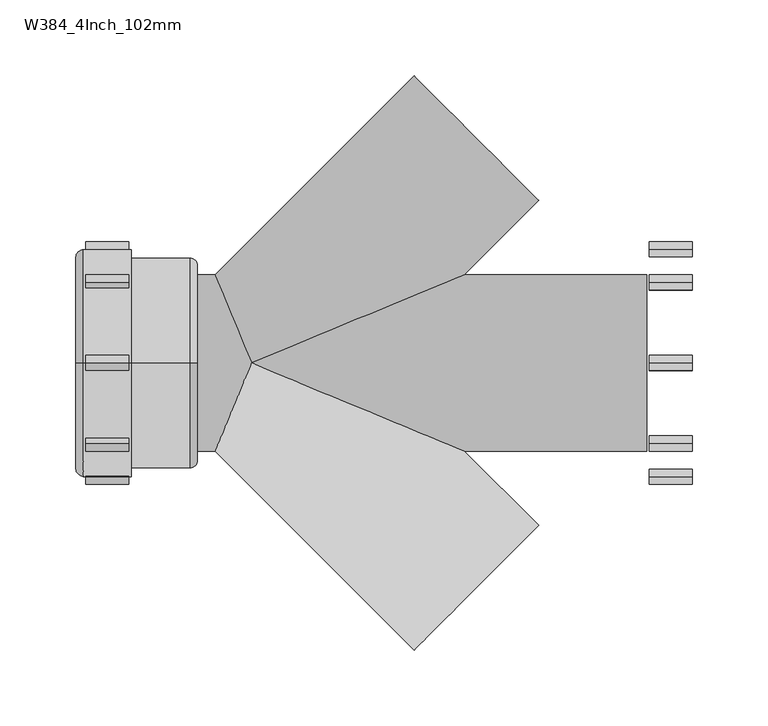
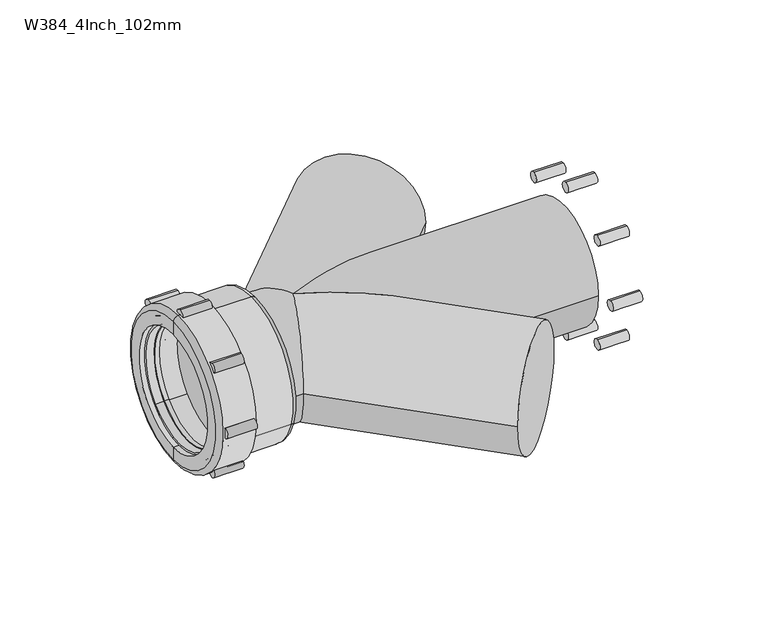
"""IFC4 building model written with IfcOpenShell, lengths in millimetres: pipe fitting geometry, Durapipe_PipeFitting_VulcatheneMechanical_DoubleWye_W38 : W384_4Inch_102mm."""

from ifc_helpers import new_model, si_unit, point, frame, frame_2d, origin, place, context, project, spatial, polyline, circle_curve, ellipse_curve, trimmed, segment, composite_curve, outline, extrude, source, transform, mapped, element, save
from ifc_brep_helpers import plane_surface, cylinder_surface, revolved_surface, advanced_brep


def w384_4inch_102mm_0749fb11(model_context):
    return source(origin(), model_context, "Body", "SolidModel", [
        extrude(outline(composite_curve([segment(trimmed(circle_curve(frame_2d((-75.0, 0.0)), 5.0), [point((-75.0, 5.0))], [point((-75.0, -5.0))], False, "CARTESIAN"), True, "CONTINUOUS"), segment(trimmed(circle_curve(frame_2d((-75.0, 0.0)), 5.0), [point((-75.0, -5.0))], [point((-75.0, 5.0))], False, "CARTESIAN"), True, "CONTINUOUS")], self_intersect=False)), frame((262.0, 0.0, 0.0), z_axis=(1.0, 0.0, 0.0), x_axis=(0.0, 1.0, 0.0)), (0.0, 0.0, 1.0), 28.2),
        extrude(outline(composite_curve([segment(trimmed(circle_curve(frame_2d((-53.0330086, -53.0330086)), 5.0), [point((-53.0330086, -48.0330086))], [point((-53.0330086, -58.0330086))], False, "CARTESIAN"), True, "CONTINUOUS"), segment(trimmed(circle_curve(frame_2d((-53.0330086, -53.0330086)), 5.0), [point((-53.0330086, -58.0330086))], [point((-53.0330086, -48.0330086))], False, "CARTESIAN"), True, "CONTINUOUS")], self_intersect=False)), frame((262.0, 0.0, 0.0), z_axis=(1.0, 0.0, 0.0), x_axis=(0.0, 1.0, 0.0)), (0.0, 0.0, 1.0), 28.2),
        extrude(outline(composite_curve([segment(trimmed(circle_curve(frame_2d((0.0, -75.0)), 5.0), [point((0.0, -70.0))], [point((0.0, -80.0))], False, "CARTESIAN"), True, "CONTINUOUS"), segment(trimmed(circle_curve(frame_2d((0.0, -75.0)), 5.0), [point((0.0, -80.0))], [point((0.0, -70.0))], False, "CARTESIAN"), True, "CONTINUOUS")], self_intersect=False)), frame((262.0, 0.0, 0.0), z_axis=(1.0, 0.0, 0.0), x_axis=(0.0, 1.0, 0.0)), (0.0, 0.0, 1.0), 28.2),
        extrude(outline(composite_curve([segment(trimmed(circle_curve(frame_2d((53.0330086, -53.0330086)), 5.0), [point((53.0330086, -48.0330086))], [point((53.0330086, -58.0330086))], False, "CARTESIAN"), True, "CONTINUOUS"), segment(trimmed(circle_curve(frame_2d((53.0330086, -53.0330086)), 5.0), [point((53.0330086, -58.0330086))], [point((53.0330086, -48.0330086))], False, "CARTESIAN"), True, "CONTINUOUS")], self_intersect=False)), frame((262.0, 0.0, 0.0), z_axis=(1.0, 0.0, 0.0), x_axis=(0.0, 1.0, 0.0)), (0.0, 0.0, 1.0), 28.2),
        extrude(outline(composite_curve([segment(trimmed(circle_curve(frame_2d((75.0, 0.0)), 5.0), [point((75.0, 5.0))], [point((75.0, -5.0))], False, "CARTESIAN"), True, "CONTINUOUS"), segment(trimmed(circle_curve(frame_2d((75.0, 0.0)), 5.0), [point((75.0, -5.0))], [point((75.0, 5.0))], False, "CARTESIAN"), True, "CONTINUOUS")], self_intersect=False)), frame((262.0, 0.0, 0.0), z_axis=(1.0, 0.0, 0.0), x_axis=(0.0, 1.0, 0.0)), (0.0, 0.0, 1.0), 28.2),
        extrude(outline(composite_curve([segment(trimmed(circle_curve(frame_2d((53.0330086, 53.0330086)), 5.0), [point((53.0330086, 58.0330086))], [point((53.0330086, 48.0330086))], False, "CARTESIAN"), True, "CONTINUOUS"), segment(trimmed(circle_curve(frame_2d((53.0330086, 53.0330086)), 5.0), [point((53.0330086, 48.0330086))], [point((53.0330086, 58.0330086))], False, "CARTESIAN"), True, "CONTINUOUS")], self_intersect=False)), frame((262.0, 0.0, 0.0), z_axis=(1.0, 0.0, 0.0), x_axis=(0.0, 1.0, 0.0)), (0.0, 0.0, 1.0), 28.2),
        extrude(outline(composite_curve([segment(trimmed(circle_curve(frame_2d((0.0, 75.0)), 5.0), [point((0.0, 80.0))], [point((0.0, 70.0))], False, "CARTESIAN"), True, "CONTINUOUS"), segment(trimmed(circle_curve(frame_2d((0.0, 75.0)), 5.0), [point((0.0, 70.0))], [point((0.0, 80.0))], False, "CARTESIAN"), True, "CONTINUOUS")], self_intersect=False)), frame((262.0, 0.0, 0.0), z_axis=(1.0, 0.0, 0.0), x_axis=(0.0, 1.0, 0.0)), (0.0, 0.0, 1.0), 28.2),
        extrude(outline(composite_curve([segment(trimmed(circle_curve(frame_2d((-53.0330086, 53.0330086)), 5.0), [point((-53.0330086, 58.0330086))], [point((-53.0330086, 48.0330086))], False, "CARTESIAN"), True, "CONTINUOUS"), segment(trimmed(circle_curve(frame_2d((-53.0330086, 53.0330086)), 5.0), [point((-53.0330086, 48.0330086))], [point((-53.0330086, 58.0330086))], False, "CARTESIAN"), True, "CONTINUOUS")], self_intersect=False)), frame((262.0, 0.0, 0.0), z_axis=(1.0, 0.0, 0.0), x_axis=(0.0, 1.0, 0.0)), (0.0, 0.0, 1.0), 28.2),
        advanced_brep(
        [(-110.2, 45.3962554, -45.3962554), (-110.2, 39.3858477, -39.3858477), (-110.2, -39.3858477, 39.3858477), (-110.2, -45.3962554, 45.3962554), (-88.4, -42.0021428, 42.0021428), (-88.4, 42.0021428, -42.0021428), (-51.5, 42.0021428, -42.0021428), (-51.5, -42.0021428, 42.0021428), (-51.5, -40.3757972, 40.3757972), (-51.5, 40.3757972, -40.3757972), (-97.5, -40.3757972, 40.3757972), (-97.5, 40.3757972, -40.3757972), (-97.5, -38.890873, 38.890873), (-97.5, 38.890873, -38.890873), (-102.0, 39.3858477, -39.3858477), (-102.0, 38.890873, -38.890873), (-102.0, -38.890873, 38.890873), (-102.0, -39.3858477, 39.3858477)],
        [
            (0, 1),
            (1, 2, circle_curve(frame((-110.2, 0.0, 0.0), z_axis=(1.0, 0.0, 0.0), x_axis=(0.0, -0.7071067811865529, 0.7071067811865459)), 55.7)),
            (2, 3),
            (3, 0, circle_curve(frame((-110.2, 0.0, 0.0), z_axis=(-1.0, 0.0, 0.0), x_axis=(0.0, -0.7071067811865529, 0.7071067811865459)), 64.2)),
            (2, 1, circle_curve(frame((-110.2, 0.0, 0.0), z_axis=(1.0, 0.0, 0.0), x_axis=(0.0, -0.7071067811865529, 0.7071067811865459)), 55.7)),
            (0, 3, circle_curve(frame((-110.2, 0.0, 0.0), z_axis=(-1.0, 0.0, 0.0), x_axis=(0.0, -0.7071067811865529, 0.7071067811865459)), 64.2)),
            (3, 4),
            (4, 5, circle_curve(frame((-88.4, 0.0, 0.0), z_axis=(-1.0, 0.0, 0.0), x_axis=(0.0, -0.7071067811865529, 0.7071067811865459)), 59.4)),
            (5, 0),
            (5, 4, circle_curve(frame((-88.4, 0.0, 0.0), z_axis=(-1.0, 0.0, 0.0), x_axis=(0.0, -0.7071067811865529, 0.7071067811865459)), 59.4)),
            (6, 5),
            (4, 7),
            (7, 6, circle_curve(frame((-51.5, 0.0, 0.0), z_axis=(-1.0, 0.0, 0.0), x_axis=(0.0, -0.7071067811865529, 0.7071067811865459)), 59.4)),
            (6, 7, circle_curve(frame((-51.5, 0.0, 0.0), z_axis=(-1.0, 0.0, 0.0), x_axis=(0.0, -0.7071067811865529, 0.7071067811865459)), 59.4)),
            (7, 8),
            (8, 9, circle_curve(frame((-51.5, 0.0, 0.0), z_axis=(-1.0, 0.0, 0.0), x_axis=(0.0, -0.7071067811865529, 0.7071067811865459)), 57.1)),
            (9, 6),
            (9, 8, circle_curve(frame((-51.5, 0.0, 0.0), z_axis=(-1.0, 0.0, 0.0), x_axis=(0.0, -0.7071067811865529, 0.7071067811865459)), 57.1)),
            (8, 10),
            (10, 11, circle_curve(frame((-97.5, 0.0, 0.0), z_axis=(-1.0, 0.0, 0.0), x_axis=(0.0, -0.7071067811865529, 0.7071067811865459)), 57.1)),
            (11, 9),
            (11, 10, circle_curve(frame((-97.5, 0.0, 0.0), z_axis=(-1.0, 0.0, 0.0), x_axis=(0.0, -0.7071067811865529, 0.7071067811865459)), 57.1)),
            (10, 12),
            (12, 13, circle_curve(frame((-97.5, 0.0, 0.0), z_axis=(-1.0, 0.0, 0.0), x_axis=(0.0, -0.7071067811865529, 0.7071067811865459)), 55.0)),
            (13, 11),
            (13, 12, circle_curve(frame((-97.5, 0.0, 0.0), z_axis=(-1.0, 0.0, 0.0), x_axis=(0.0, -0.7071067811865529, 0.7071067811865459)), 55.0)),
            (14, 15),
            (15, 16, circle_curve(frame((-102.0, 0.0, 0.0), z_axis=(1.0, 0.0, 0.0), x_axis=(0.0, -0.7071067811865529, 0.7071067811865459)), 55.0)),
            (16, 17),
            (17, 14, circle_curve(frame((-102.0, 0.0, 0.0), z_axis=(-1.0, 0.0, 0.0), x_axis=(0.0, -0.7071067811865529, 0.7071067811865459)), 55.7)),
            (16, 15, circle_curve(frame((-102.0, 0.0, 0.0), z_axis=(1.0, 0.0, 0.0), x_axis=(0.0, -0.7071067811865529, 0.7071067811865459)), 55.0)),
            (14, 17, circle_curve(frame((-102.0, 0.0, 0.0), z_axis=(-1.0, 0.0, 0.0), x_axis=(0.0, -0.7071067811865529, 0.7071067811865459)), 55.7)),
            (1, 14),
            (17, 2),
            (12, 16),
            (15, 13),
        ],
        [
            plane_surface(frame((-110.2, 0.0, 0.0), z_axis=(-1.0, 0.0, 0.0), x_axis=(0.0, -0.707106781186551, 0.707106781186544))),
            revolved_surface(polyline([(-110.2, -45.3962554, 45.3962554), (-88.4, -42.0021428, 42.0021428)]), (-115.2, 0.0, 0.0), (1.0000000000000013, 0.0, 0.0)),
            cylinder_surface(frame((-49.4293443, 0.0, 0.0), z_axis=(1.0000000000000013, 0.0, 0.0), x_axis=(0.0, -0.7071067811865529, 0.7071067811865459)), 59.4),
            plane_surface(frame((-51.5, 0.0, 0.0), z_axis=(1.0, 0.0, 0.0), x_axis=(0.0, -0.707106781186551, 0.707106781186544))),
            revolved_surface(polyline([(-51.50000000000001, -40.37579720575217, 40.37579720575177), (-97.50000000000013, -40.37579720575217, 40.37579720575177)]), (-48.007009, 0.0, 0.0), (1.0000000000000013, 0.0, 0.0)),
            plane_surface(frame((-97.5, 0.0, 0.0), z_axis=(1.0, 0.0, 0.0), x_axis=(0.0, -0.707106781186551, 0.707106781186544))),
            plane_surface(frame((-102.0, 0.0, 0.0), z_axis=(-1.0, 0.0, 0.0), x_axis=(0.0, -0.707106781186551, 0.707106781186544))),
            revolved_surface(polyline([(-101.99999999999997, -39.385847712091, 39.38584771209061), (-110.19999999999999, -39.385847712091, 39.38584771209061)]), (-115.2, 0.0, 0.0), (1.0000000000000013, 0.0, 0.0)),
            revolved_surface(polyline([(-97.49999999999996, -38.89087296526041, 38.89087296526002), (-101.99999999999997, -38.89087296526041, 38.89087296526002)]), (-111.7661924, 0.0, 0.0), (1.0000000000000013, 0.0, 0.0)),
        ],
        [
            (0, [[1, 2, 3, 4]]),
            (0, [[5, -1, 6, -3]]),
            (1, [[7, 8, 9, -4]]),
            (1, [[-9, 10, -7, -6]]),
            (2, [[11, -8, 12, 13]]),
            (2, [[-10, -11, 14, -12]]),
            (3, [[15, 16, 17, -13]]),
            (3, [[-17, 18, -15, -14]]),
            (4, [[-16, 19, 20, 21]]),
            (4, [[22, -19, -18, -21]]),
            (5, [[23, 24, 25, -20]]),
            (5, [[-25, 26, -23, -22]]),
            (6, [[27, 28, 29, 30]]),
            (6, [[-29, 31, -27, 32]]),
            (7, [[33, -30, 34, -2]]),
            (7, [[-34, -32, -33, -5]]),
            (8, [[-24, 35, -28, 36]]),
            (8, [[-31, -35, -26, -36]]),
        ],
    ),
        advanced_brep(
        [(-79.2, 0.0, -75.0), (-110.7, 0.0, -75.0), (-110.7, 0.0, 75.0), (-79.2, 0.0, 75.0), (-79.2, 0.0, -69.5), (-79.2, 0.0, 69.5), (-115.7, 0.0, -70.0), (-115.7, 0.0, -57.5), (-115.7, 0.0, 57.5), (-115.7, 0.0, 70.0), (-110.2, 0.0, -66.0), (-79.2, 0.0, -66.0), (-79.2, 0.0, 66.0), (-110.2, 0.0, 66.0), (-110.2, 0.0, -57.5), (-110.2, 0.0, 57.5), (-40.7, 0.0, -69.5), (-40.7, 0.0, 69.5), (-35.7, 0.0, -64.5), (-35.7, 0.0, 64.5), (-35.7, 0.0, 0.0), (-79.2, 0.0, 0.0)],
        [
            (0, 1),
            (1, 2, circle_curve(frame((-110.7, 0.0, 0.0), z_axis=(1.0, 0.0, 0.0), x_axis=(0.0, 0.0, 1.0000000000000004)), 75.0)),
            (2, 3),
            (3, 0, circle_curve(frame((-79.2, 0.0, 0.0), z_axis=(-1.0, 0.0, 0.0), x_axis=(0.0, 0.0, 1.0000000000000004)), 75.0)),
            (2, 1, circle_curve(frame((-110.7, 0.0, 0.0), z_axis=(1.0, 0.0, 0.0), x_axis=(0.0, 0.0, 1.0000000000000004)), 75.0)),
            (0, 3, circle_curve(frame((-79.2, 0.0, 0.0), z_axis=(-1.0, 0.0, 0.0), x_axis=(0.0, 0.0, 1.0000000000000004)), 75.0)),
            (4, 0),
            (3, 5),
            (5, 4, circle_curve(frame((-79.2, 0.0, 0.0), z_axis=(-1.0, 0.0, 0.0), x_axis=(0.0, 0.0, 1.0000000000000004)), 69.5)),
            (4, 5, circle_curve(frame((-79.2, 0.0, 0.0), z_axis=(-1.0, 0.0, 0.0), x_axis=(0.0, 0.0, 1.0000000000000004)), 69.5)),
            (6, 7),
            (7, 8, circle_curve(frame((-115.7, 0.0, 0.0), z_axis=(1.0, 0.0, 0.0), x_axis=(0.0, 0.0, 1.0000000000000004)), 57.5)),
            (8, 9),
            (9, 6, circle_curve(frame((-115.7, 0.0, 0.0), z_axis=(-1.0, 0.0, 0.0), x_axis=(0.0, 0.0, 1.0000000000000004)), 70.0)),
            (8, 7, circle_curve(frame((-115.7, 0.0, 0.0), z_axis=(1.0, 0.0, 0.0), x_axis=(0.0, 0.0, 1.0000000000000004)), 57.5)),
            (6, 9, circle_curve(frame((-115.7, 0.0, 0.0), z_axis=(-1.0, 0.0, 0.0), x_axis=(0.0, 0.0, 1.0000000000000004)), 70.0)),
            (1, 6, circle_curve(frame((-110.7, 0.0, -70.0), z_axis=(0.0, 1.0000000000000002, 0.0), x_axis=(-1.0000000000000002, 0.0, 0.0)), 5.0)),
            (9, 2, circle_curve(frame((-110.7, 0.0, 70.0), z_axis=(0.0, 1.0000000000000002, 0.0), x_axis=(-1.0000000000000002, 0.0, 0.0)), 5.0)),
            (10, 11),
            (11, 12, circle_curve(frame((-79.2, 0.0, 0.0), z_axis=(1.0, 0.0, 0.0), x_axis=(0.0, 0.0, 1.0000000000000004)), 66.0)),
            (12, 13),
            (13, 10, circle_curve(frame((-110.2, 0.0, 0.0), z_axis=(-1.0, 0.0, 0.0), x_axis=(0.0, 0.0, 1.0000000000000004)), 66.0)),
            (12, 11, circle_curve(frame((-79.2, 0.0, 0.0), z_axis=(1.0, 0.0, 0.0), x_axis=(0.0, 0.0, 1.0000000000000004)), 66.0)),
            (10, 13, circle_curve(frame((-110.2, 0.0, 0.0), z_axis=(-1.0, 0.0, 0.0), x_axis=(0.0, 0.0, 1.0000000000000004)), 66.0)),
            (14, 10),
            (13, 15),
            (15, 14, circle_curve(frame((-110.2, 0.0, 0.0), z_axis=(-1.0, 0.0, 0.0), x_axis=(0.0, 0.0, 1.0000000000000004)), 57.5)),
            (14, 15, circle_curve(frame((-110.2, 0.0, 0.0), z_axis=(-1.0, 0.0, 0.0), x_axis=(0.0, 0.0, 1.0000000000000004)), 57.5)),
            (7, 14),
            (15, 8),
            (16, 4),
            (5, 17),
            (17, 16, circle_curve(frame((-40.7, 0.0, 0.0), z_axis=(-1.0, 0.0, 0.0), x_axis=(0.0, 0.0, 1.0000000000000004)), 69.5)),
            (16, 17, circle_curve(frame((-40.7, 0.0, 0.0), z_axis=(-1.0, 0.0, 0.0), x_axis=(0.0, 0.0, 1.0000000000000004)), 69.5)),
            (18, 16, circle_curve(frame((-40.7, 0.0, -64.5), z_axis=(0.0, 1.0000000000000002, 0.0), x_axis=(-1.0000000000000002, 0.0, 0.0)), 5.0)),
            (17, 19, circle_curve(frame((-40.7, 0.0, 64.5), z_axis=(0.0, 1.0000000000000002, 0.0), x_axis=(-1.0000000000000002, 0.0, 0.0)), 5.0)),
            (19, 18, circle_curve(frame((-35.7, 0.0, 0.0), z_axis=(-1.0, 0.0, 0.0), x_axis=(0.0, 0.0, 1.0000000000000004)), 64.5)),
            (18, 19, circle_curve(frame((-35.7, 0.0, 0.0), z_axis=(-1.0, 0.0, 0.0), x_axis=(0.0, 0.0, 1.0000000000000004)), 64.5)),
            (20, 18),
            (19, 20),
            (11, 21),
            (21, 12),
        ],
        [
            cylinder_surface(frame((-1676.5018184, 0.0, 0.0), z_axis=(1.0000000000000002, 0.0, 0.0), x_axis=(0.0, 0.0, 1.0000000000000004)), 75.0),
            plane_surface(frame((-79.2, 0.0, 0.0), z_axis=(1.0, 0.0, 0.0), x_axis=(0.0, 0.0, 1.0))),
            plane_surface(frame((-115.7, 0.0, 0.0), z_axis=(-1.0, 0.0, 0.0), x_axis=(0.0, 0.0, 1.0))),
            revolved_surface(trimmed(ellipse_curve(frame((-110.7, 0.0, 70.0), z_axis=(0.0, 1.0000000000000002, 0.0), x_axis=(-1.0000000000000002, 0.0, 0.0)), 5.0, 5.0), [point((-115.7, 0.0, 70.0))], [point((-110.7, 0.0, 75.0))], True, "CARTESIAN"), (-1676.5018184, 0.0, 0.0), (1.0000000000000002, 0.0, 0.0)),
            revolved_surface(polyline([(-79.19999999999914, 0.0, 66.00000000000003), (-110.19999999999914, 0.0, 66.00000000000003)]), (-1676.5018184, 0.0, 0.0), (1.0000000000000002, 0.0, 0.0)),
            plane_surface(frame((-110.2, 0.0, 0.0), z_axis=(1.0, 0.0, 0.0), x_axis=(0.0, 0.0, 1.0))),
            revolved_surface(polyline([(-110.19999999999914, 0.0, 57.50000000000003), (-115.69999999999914, 0.0, 57.50000000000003)]), (-1676.5018184, 0.0, 0.0), (1.0000000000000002, 0.0, 0.0)),
            cylinder_surface(frame((-1676.5018184, 0.0, 0.0), z_axis=(1.0000000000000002, 0.0, 0.0), x_axis=(0.0, 0.0, 1.0000000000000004)), 69.5),
            revolved_surface(trimmed(ellipse_curve(frame((-40.7, 0.0, 64.5), z_axis=(0.0, 1.0000000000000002, 0.0), x_axis=(-1.0000000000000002, 0.0, 0.0)), 5.0, 5.0), [point((-40.7, 0.0, 69.5))], [point((-35.7, 0.0, 64.5))], True, "CARTESIAN"), (-1676.5018184, 0.0, 0.0), (1.0000000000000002, 0.0, 0.0)),
            plane_surface(frame((-35.7, 0.0, 0.0), z_axis=(1.0, 0.0, 0.0), x_axis=(0.0, 0.0, 1.0))),
            plane_surface(frame((-79.2, 0.0, 0.0), z_axis=(-1.0, 0.0, 0.0), x_axis=(0.0, 0.0, 1.0))),
        ],
        [
            (0, [[1, 2, 3, 4]]),
            (0, [[-3, 5, -1, 6]]),
            (1, [[7, -4, 8, 9]]),
            (1, [[-8, -6, -7, 10]]),
            (2, [[11, 12, 13, 14]]),
            (2, [[-13, 15, -11, 16]]),
            (3, [[17, -14, 18, -2]]),
            (3, [[-18, -16, -17, -5]]),
            (4, [[19, 20, 21, 22]]),
            (4, [[-21, 23, -19, 24]]),
            (5, [[25, -22, 26, 27]]),
            (5, [[-26, -24, -25, 28]]),
            (6, [[29, -27, 30, -12]]),
            (6, [[-30, -28, -29, -15]]),
            (7, [[31, -9, 32, 33]]),
            (7, [[-32, -10, -31, 34]]),
            (8, [[35, -33, 36, 37]]),
            (8, [[-36, -34, -35, 38]]),
            (9, [[39, -37, 40]]),
            (9, [[-40, -38, -39]]),
            (10, [[41, 42, -20]]),
            (10, [[-42, -41, -23]]),
        ],
    ),
        extrude(outline(composite_curve([segment(trimmed(circle_curve(frame_2d((-75.0, 0.0)), 5.0), [point((-75.0, -5.0))], [point((-75.0, 5.0))], False, "CARTESIAN"), True, "CONTINUOUS"), segment(trimmed(circle_curve(frame_2d((-75.0, 0.0)), 5.0), [point((-75.0, 5.0))], [point((-75.0, -5.0))], False, "CARTESIAN"), True, "CONTINUOUS")], self_intersect=False)), frame((-109.2, 0.0, 0.0), z_axis=(1.0, 0.0, 0.0), x_axis=(0.0, 1.0, 0.0)), (0.0, 0.0, 1.0), 28.2),
        extrude(outline(composite_curve([segment(trimmed(circle_curve(frame_2d((-53.0330086, 53.0330086)), 5.0), [point((-53.0330086, 48.0330086))], [point((-53.0330086, 58.0330086))], False, "CARTESIAN"), True, "CONTINUOUS"), segment(trimmed(circle_curve(frame_2d((-53.0330086, 53.0330086)), 5.0), [point((-53.0330086, 58.0330086))], [point((-53.0330086, 48.0330086))], False, "CARTESIAN"), True, "CONTINUOUS")], self_intersect=False)), frame((-109.2, 0.0, 0.0), z_axis=(1.0, 0.0, 0.0), x_axis=(0.0, 1.0, 0.0)), (0.0, 0.0, 1.0), 28.2),
        extrude(outline(composite_curve([segment(trimmed(circle_curve(frame_2d((0.0, 75.0)), 5.0), [point((0.0, 70.0))], [point((0.0, 80.0))], False, "CARTESIAN"), True, "CONTINUOUS"), segment(trimmed(circle_curve(frame_2d((0.0, 75.0)), 5.0), [point((0.0, 80.0))], [point((0.0, 70.0))], False, "CARTESIAN"), True, "CONTINUOUS")], self_intersect=False)), frame((-109.2, 0.0, 0.0), z_axis=(1.0, 0.0, 0.0), x_axis=(0.0, 1.0, 0.0)), (0.0, 0.0, 1.0), 28.2),
        extrude(outline(composite_curve([segment(trimmed(circle_curve(frame_2d((53.0330086, 53.0330086)), 5.0), [point((53.0330086, 48.0330086))], [point((53.0330086, 58.0330086))], False, "CARTESIAN"), True, "CONTINUOUS"), segment(trimmed(circle_curve(frame_2d((53.0330086, 53.0330086)), 5.0), [point((53.0330086, 58.0330086))], [point((53.0330086, 48.0330086))], False, "CARTESIAN"), True, "CONTINUOUS")], self_intersect=False)), frame((-109.2, 0.0, 0.0), z_axis=(1.0, 0.0, 0.0), x_axis=(0.0, 1.0, 0.0)), (0.0, 0.0, 1.0), 28.2),
        extrude(outline(composite_curve([segment(trimmed(circle_curve(frame_2d((75.0, 0.0)), 5.0), [point((75.0, -5.0))], [point((75.0, 5.0))], False, "CARTESIAN"), True, "CONTINUOUS"), segment(trimmed(circle_curve(frame_2d((75.0, 0.0)), 5.0), [point((75.0, 5.0))], [point((75.0, -5.0))], False, "CARTESIAN"), True, "CONTINUOUS")], self_intersect=False)), frame((-109.2, 0.0, 0.0), z_axis=(1.0, 0.0, 0.0), x_axis=(0.0, 1.0, 0.0)), (0.0, 0.0, 1.0), 28.2),
        extrude(outline(composite_curve([segment(trimmed(circle_curve(frame_2d((53.0330086, -53.0330086)), 5.0), [point((53.0330086, -58.0330086))], [point((53.0330086, -48.0330086))], False, "CARTESIAN"), True, "CONTINUOUS"), segment(trimmed(circle_curve(frame_2d((53.0330086, -53.0330086)), 5.0), [point((53.0330086, -48.0330086))], [point((53.0330086, -58.0330086))], False, "CARTESIAN"), True, "CONTINUOUS")], self_intersect=False)), frame((-109.2, 0.0, 0.0), z_axis=(1.0, 0.0, 0.0), x_axis=(0.0, 1.0, 0.0)), (0.0, 0.0, 1.0), 28.2),
        extrude(outline(composite_curve([segment(trimmed(circle_curve(frame_2d((0.0, -75.0)), 5.0), [point((0.0, -80.0))], [point((0.0, -70.0))], False, "CARTESIAN"), True, "CONTINUOUS"), segment(trimmed(circle_curve(frame_2d((0.0, -75.0)), 5.0), [point((0.0, -70.0))], [point((0.0, -80.0))], False, "CARTESIAN"), True, "CONTINUOUS")], self_intersect=False)), frame((-109.2, 0.0, 0.0), z_axis=(1.0, 0.0, 0.0), x_axis=(0.0, 1.0, 0.0)), (0.0, 0.0, 1.0), 28.2),
        extrude(outline(composite_curve([segment(trimmed(circle_curve(frame_2d((-53.0330086, -53.0330086)), 5.0), [point((-53.0330086, -58.0330086))], [point((-53.0330086, -48.0330086))], False, "CARTESIAN"), True, "CONTINUOUS"), segment(trimmed(circle_curve(frame_2d((-53.0330086, -53.0330086)), 5.0), [point((-53.0330086, -48.0330086))], [point((-53.0330086, -58.0330086))], False, "CARTESIAN"), True, "CONTINUOUS")], self_intersect=False)), frame((-109.2, 0.0, 0.0), z_axis=(1.0, 0.0, 0.0), x_axis=(0.0, 1.0, 0.0)), (0.0, 0.0, 1.0), 28.2),
        advanced_brep(
        [(-79.2, 58.0, 0.0), (-79.2, -58.0, 0.0), (-79.2, 0.0, 15.0890689), (-79.2, -2.8243866, 0.0), (-79.2, 0.0, -15.0890689), (-79.2, 2.8243866, 0.0), (260.2, 58.0, 0.0), (260.2, -58.0, 0.0), (-24.0243866, -58.0, 0.0), (0.0, 0.0, 58.0), (-24.0243866, 58.0, 0.0), (140.0243866, 58.0, 0.0), (140.0243866, -58.0, 0.0), (0.0, 0.0, -58.0), (107.0559667, -189.0803533, 0.0), (189.0803533, -107.0559667, 0.0), (107.0559667, 189.0803533, 0.0), (189.0803533, 107.0559667, 0.0), (-82.0243866, 0.0, 0.0)],
        [
            (0, 1, circle_curve(frame((-79.2, 0.0, 0.0), z_axis=(-1.0, 0.0, 0.0), x_axis=(0.0, -1.0, 0.0)), 58.0)),
            (1, 0, circle_curve(frame((-79.2, 0.0, 0.0), z_axis=(-1.0, 0.0, 0.0), x_axis=(0.0, -1.0, 0.0)), 58.0)),
            (2, 3, ellipse_curve(frame((-79.2, 79.2, 0.0), z_axis=(1.0, 0.0, 0.0), x_axis=(0.0, -1.0, 0.0)), 82.0243866, 58.0)),
            (3, 4, ellipse_curve(frame((-79.2, 79.2, 0.0), z_axis=(1.0, 0.0, 0.0), x_axis=(0.0, -1.0, 0.0)), 82.0243866, 58.0)),
            (4, 5, ellipse_curve(frame((-79.2, -79.2, 0.0), z_axis=(1.0, 0.0, 0.0), x_axis=(0.0, -1.0, 0.0)), 82.0243866, 58.0)),
            (5, 2, ellipse_curve(frame((-79.2, -79.2, 0.0), z_axis=(1.0, 0.0, 0.0), x_axis=(0.0, -1.0, 0.0)), 82.0243866, 58.0)),
            (6, 7, circle_curve(frame((260.2, 0.0, 0.0), z_axis=(1.0, 0.0, 0.0), x_axis=(0.0, -1.0, 0.0)), 58.0)),
            (7, 6, circle_curve(frame((260.2, 0.0, 0.0), z_axis=(1.0, 0.0, 0.0), x_axis=(0.0, -1.0, 0.0)), 58.0)),
            (1, 8),
            (8, 9, ellipse_curve(frame((0.0, 0.0, 0.0), z_axis=(-0.9238795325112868, 0.3826834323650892, 0.0), x_axis=(-0.3826834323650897, -0.9238795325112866, 0.0)), 62.7787476, 58.0)),
            (9, 10, ellipse_curve(frame((0.0, 0.0, 0.0), z_axis=(-0.9238795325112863, -0.38268343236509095, 0.0), x_axis=(-0.3826834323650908, 0.9238795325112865, 0.0)), 62.7787476, 58.0)),
            (10, 0),
            (6, 11),
            (11, 9, ellipse_curve(frame((0.0, 0.0, 0.0), z_axis=(0.3826834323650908, -0.9238795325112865, 0.0), x_axis=(-0.9238795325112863, -0.3826834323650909, 0.0)), 151.5613039, 58.0)),
            (9, 12, ellipse_curve(frame((0.0, 0.0, 0.0), z_axis=(0.3826834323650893, 0.923879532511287, 0.0), x_axis=(-0.9238795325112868, 0.3826834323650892, 0.0)), 151.5613039, 58.0)),
            (12, 7),
            (10, 13, ellipse_curve(frame((0.0, 0.0, 0.0), z_axis=(-0.9238795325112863, -0.38268343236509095, 0.0), x_axis=(-0.3826834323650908, 0.9238795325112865, 0.0)), 62.7787476, 58.0)),
            (13, 8, ellipse_curve(frame((0.0, 0.0, 0.0), z_axis=(-0.9238795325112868, 0.3826834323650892, 0.0), x_axis=(-0.3826834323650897, -0.9238795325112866, 0.0)), 62.7787476, 58.0)),
            (12, 13, ellipse_curve(frame((0.0, 0.0, 0.0), z_axis=(0.3826834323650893, 0.923879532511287, 0.0), x_axis=(-0.9238795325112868, 0.3826834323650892, 0.0)), 151.5613039, 58.0)),
            (13, 11, ellipse_curve(frame((0.0, 0.0, 0.0), z_axis=(0.3826834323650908, -0.9238795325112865, 0.0), x_axis=(-0.9238795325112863, -0.3826834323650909, 0.0)), 151.5613039, 58.0)),
            (14, 15, circle_curve(frame((148.06816, -148.06816, 0.0), z_axis=(0.7071067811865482, -0.7071067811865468, 0.0), x_axis=(0.7071067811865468, 0.7071067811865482, 0.0)), 58.0)),
            (15, 14, circle_curve(frame((148.06816, -148.06816, 0.0), z_axis=(0.7071067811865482, -0.7071067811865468, 0.0), x_axis=(0.7071067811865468, 0.7071067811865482, 0.0)), 58.0)),
            (16, 17, circle_curve(frame((148.06816, 148.06816, 0.0), z_axis=(0.7071067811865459, 0.7071067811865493, 0.0), x_axis=(0.7071067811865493, -0.7071067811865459, 0.0)), 58.0)),
            (17, 16, circle_curve(frame((148.06816, 148.06816, 0.0), z_axis=(0.7071067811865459, 0.7071067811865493, 0.0), x_axis=(0.7071067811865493, -0.7071067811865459, 0.0)), 58.0)),
            (16, 10),
            (11, 17),
            (18, 2, ellipse_curve(frame((0.0, 0.0, 0.0), z_axis=(0.0, 1.0, 0.0), x_axis=(-1.0, 0.0, 0.0)), 82.0243866, 58.0)),
            (5, 18),
            (4, 18, ellipse_curve(frame((0.0, 0.0, 0.0), z_axis=(0.0, 1.0, 0.0), x_axis=(-1.0, 0.0, 0.0)), 82.0243866, 58.0)),
            (18, 3),
            (15, 12),
            (8, 14),
        ],
        [
            plane_surface(frame((-79.2, 0.0, 0.0), z_axis=(-1.0, 0.0, 0.0), x_axis=(0.0, 0.0, 1.0))),
            plane_surface(frame((260.2, 0.0, 0.0), z_axis=(1.0, 0.0, 0.0), x_axis=(0.0, 0.0, 1.0))),
            cylinder_surface(frame((-79.2, 0.0, 0.0), z_axis=(-1.0, 0.0, 0.0), x_axis=(0.0, -1.0, 0.0)), 58.0),
            plane_surface(frame((148.06816, -148.06816, 0.0), z_axis=(0.7071067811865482, -0.7071067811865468, 0.0), x_axis=(0.0, 0.0, 1.0))),
            plane_surface(frame((148.06816, 148.06816, 0.0), z_axis=(0.7071067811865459, 0.7071067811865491, 0.0), x_axis=(0.0, 0.0, 1.0))),
            cylinder_surface(frame((0.0, 0.0, 0.0), z_axis=(-0.7071067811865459, -0.7071067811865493, 0.0), x_axis=(0.7071067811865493, -0.7071067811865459, 0.0)), 58.0),
            cylinder_surface(frame((148.06816, -148.06816, 0.0), z_axis=(0.7071067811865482, -0.7071067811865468, 0.0), x_axis=(0.7071067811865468, 0.7071067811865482, 0.0)), 58.0),
        ],
        [
            (0, [[1, 2], [3, 4, 5, 6]]),
            (1, [[7, 8]]),
            (2, [[9, 10, 11, 12, -2]]),
            (2, [[13, 14, 15, 16, -7]]),
            (2, [[-12, 17, 18, -9, -1]]),
            (2, [[-16, 19, 20, -13, -8]]),
            (3, [[21, 22]]),
            (4, [[23, 24]]),
            (5, [[25, -11, -14, 26, -23]]),
            (5, [[27, -6, 28]]),
            (5, [[-5, 29, -28]]),
            (5, [[-26, -20, -17, -25, -24]]),
            (6, [[-3, -27, 30]]),
            (6, [[31, -15, -10, 32, -22]]),
            (6, [[-29, -4, -30]]),
            (6, [[-32, -18, -19, -31, -21]]),
        ],
    ),
    ])


if __name__ == "__main__":
    model = new_model("IFC4")
    model_context = context("Model", 3, world=origin())
    ifc_project = project(units=[si_unit("LENGTHUNIT", "METRE", prefix="MILLI")], contexts=[model_context])
    site = spatial("IfcSite", under=ifc_project)
    building = spatial("IfcBuilding", under=site)
    placement = place(None, origin())
    w384_4inch_102mm_shape = w384_4inch_102mm_0749fb11(model_context)
    element("IfcPipeFitting", 1, ObjectType="Durapipe_PipeFitting_VulcatheneMechanical_DoubleWye_W38 : W384_4Inch_102mm", at=placement, inside=building, context=model_context, shape_type="MappedRepresentation", body=[
        mapped(w384_4inch_102mm_shape, transform((0.0, 0.0, 0.0), x_axis=(1.0, 0.0, 0.0), y_axis=(0.0, 1.0, 0.0), z_axis=(0.0, 0.0, 1.0))),
    ])
    save(model, "model.ifc")
